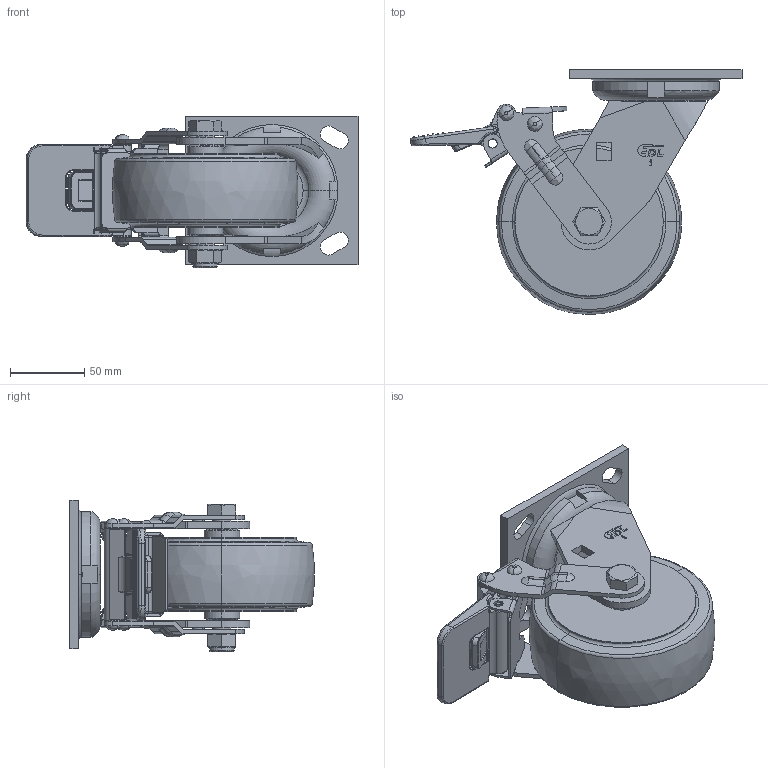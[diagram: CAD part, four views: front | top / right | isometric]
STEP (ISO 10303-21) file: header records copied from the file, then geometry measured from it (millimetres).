
FILE_DESCRIPTION((''),'2;1');
FILE_NAME('73125F-735-86_ASM','2020-11-30T',('lenovo'),(''),'PRO/ENGINEER BY PARAMETRIC TECHNOLOGY CORPORATION, 2010280','PRO/ENGINEER BY PARAMETRIC TECHNOLOGY CORPORATION, 2010280','');
FILE_SCHEMA(('CONFIG_CONTROL_DESIGN'));
Length unit declared in the file: millimetre
Products named in the file (13): 7310-201; 7310-211; 7315-353; 7315-311_ASM; 7315-535; 700-64OFF; 700E-13_; 700-64ON; 735FF_ASM; 735-86; 7010-33-1; 7010-34; 73125F-735-86_ASM
Assembly tree (12 placements, depth 3):
  73125F-735-86_ASM
    7310-201
    7315-311_ASM
      7310-211
      7315-353
    735FF_ASM
      7315-535
      700-64OFF
      700E-13_
      700-64ON
    735-86
    7010-33-1
    7010-34
Bounding box: 223.7 x 164.83 x 102 mm (x, y, z)
Volume: 847135.7 mm3; surface area: 158575.1 mm2
Topology: 11 solids, 11 shells, 744 faces, 1806 edges, 1104 vertices
Faces by surface type: plane 306, cylinder 248, torus 76, bspline 74, cone 38, sphere 2
Entity records: 25583 total; most frequent: CARTESIAN_POINT 7980, DIRECTION 3656, ORIENTED_EDGE 3612, EDGE_CURVE 1806, AXIS2_PLACEMENT_3D 1344, VERTEX_POINT 1104, VECTOR 968, LINE 968
